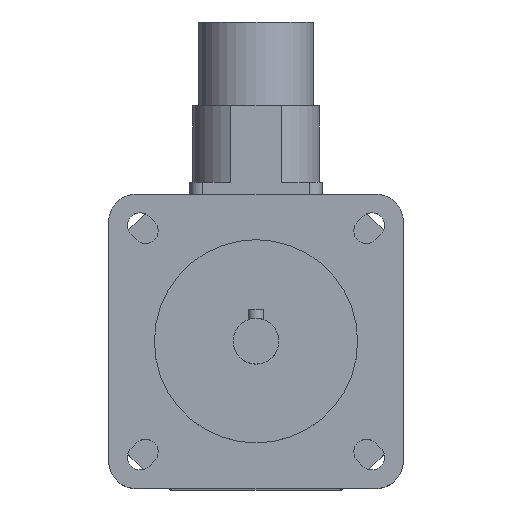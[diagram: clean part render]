
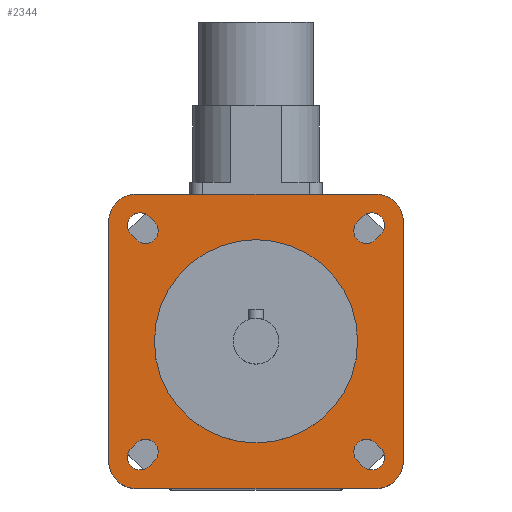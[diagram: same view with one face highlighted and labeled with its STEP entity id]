
A CAD part, top view. The second image highlights one B-rep face of the part: STEP entity #2344.
In plain terms, the highlighted planar face has unit normal (0, 0, 1).
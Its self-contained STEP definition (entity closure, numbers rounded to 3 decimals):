
#28=FACE_BOUND('',#421,.T.);
#29=FACE_BOUND('',#422,.T.);
#30=FACE_BOUND('',#423,.T.);
#31=FACE_BOUND('',#424,.T.);
#32=FACE_BOUND('',#425,.T.);
#46=CIRCLE('',#2435,20.);
#83=CIRCLE('',#2499,2.5);
#87=CIRCLE('',#2506,2.5);
#88=CIRCLE('',#2509,2.5);
#89=CIRCLE('',#2512,2.5);
#99=CIRCLE('',#2527,2.5);
#100=CIRCLE('',#2530,2.5);
#101=CIRCLE('',#2533,2.5);
#102=CIRCLE('',#2536,2.5);
#103=CIRCLE('',#2538,5.5);
#104=CIRCLE('',#2540,5.5);
#105=CIRCLE('',#2542,5.5);
#106=CIRCLE('',#2544,5.5);
#281=FACE_OUTER_BOUND('',#420,.T.);
#420=EDGE_LOOP('',(#1806,#1807,#1808,#1809,#1810,#1811,#1812,#1813));
#421=EDGE_LOOP('',(#1814));
#422=EDGE_LOOP('',(#1815,#1816,#1817,#1818));
#423=EDGE_LOOP('',(#1819,#1820,#1821,#1822));
#424=EDGE_LOOP('',(#1823,#1824,#1825,#1826));
#425=EDGE_LOOP('',(#1827,#1828,#1829,#1830));
#564=LINE('',#3642,#783);
#572=LINE('',#3666,#791);
#576=LINE('',#3676,#795);
#580=LINE('',#3686,#799);
#596=LINE('',#3737,#815);
#598=LINE('',#3743,#817);
#600=LINE('',#3749,#819);
#602=LINE('',#3755,#821);
#611=LINE('',#3783,#830);
#612=LINE('',#3784,#831);
#613=LINE('',#3785,#832);
#614=LINE('',#3786,#833);
#783=VECTOR('',#2885,1.5);
#791=VECTOR('',#2907,1.5);
#795=VECTOR('',#2917,1.5);
#799=VECTOR('',#2927,1.5);
#815=VECTOR('',#2973,1.5);
#817=VECTOR('',#2981,1.5);
#819=VECTOR('',#2989,1.5);
#821=VECTOR('',#2997,1.5);
#830=VECTOR('',#3028,47.);
#831=VECTOR('',#3029,47.);
#832=VECTOR('',#3030,47.);
#833=VECTOR('',#3031,47.);
#956=VERTEX_POINT('',#3463);
#1021=VERTEX_POINT('',#3639);
#1022=VERTEX_POINT('',#3641);
#1023=VERTEX_POINT('',#3645);
#1030=VERTEX_POINT('',#3663);
#1031=VERTEX_POINT('',#3665);
#1032=VERTEX_POINT('',#3669);
#1033=VERTEX_POINT('',#3673);
#1034=VERTEX_POINT('',#3675);
#1035=VERTEX_POINT('',#3679);
#1036=VERTEX_POINT('',#3683);
#1037=VERTEX_POINT('',#3685);
#1038=VERTEX_POINT('',#3689);
#1057=VERTEX_POINT('',#3735);
#1058=VERTEX_POINT('',#3741);
#1059=VERTEX_POINT('',#3747);
#1060=VERTEX_POINT('',#3753);
#1061=VERTEX_POINT('',#3759);
#1062=VERTEX_POINT('',#3761);
#1063=VERTEX_POINT('',#3765);
#1064=VERTEX_POINT('',#3767);
#1065=VERTEX_POINT('',#3771);
#1066=VERTEX_POINT('',#3773);
#1067=VERTEX_POINT('',#3777);
#1068=VERTEX_POINT('',#3779);
#1190=EDGE_CURVE('',#956,#956,#46,.T.);
#1276=EDGE_CURVE('',#1022,#1021,#564,.T.);
#1279=EDGE_CURVE('',#1021,#1023,#83,.T.);
#1288=EDGE_CURVE('',#1031,#1030,#572,.T.);
#1291=EDGE_CURVE('',#1030,#1032,#87,.T.);
#1293=EDGE_CURVE('',#1034,#1033,#576,.T.);
#1296=EDGE_CURVE('',#1033,#1035,#88,.T.);
#1298=EDGE_CURVE('',#1037,#1036,#580,.T.);
#1301=EDGE_CURVE('',#1036,#1038,#89,.T.);
#1324=EDGE_CURVE('',#1035,#1057,#596,.T.);
#1325=EDGE_CURVE('',#1057,#1034,#99,.T.);
#1327=EDGE_CURVE('',#1032,#1058,#598,.T.);
#1328=EDGE_CURVE('',#1058,#1031,#100,.T.);
#1330=EDGE_CURVE('',#1038,#1059,#600,.T.);
#1331=EDGE_CURVE('',#1059,#1037,#101,.T.);
#1333=EDGE_CURVE('',#1023,#1060,#602,.T.);
#1334=EDGE_CURVE('',#1060,#1022,#102,.T.);
#1336=EDGE_CURVE('',#1062,#1061,#103,.T.);
#1339=EDGE_CURVE('',#1064,#1063,#104,.T.);
#1342=EDGE_CURVE('',#1066,#1065,#105,.T.);
#1345=EDGE_CURVE('',#1068,#1067,#106,.T.);
#1347=EDGE_CURVE('',#1061,#1068,#611,.T.);
#1348=EDGE_CURVE('',#1067,#1066,#612,.T.);
#1349=EDGE_CURVE('',#1065,#1064,#613,.T.);
#1350=EDGE_CURVE('',#1063,#1062,#614,.T.);
#1806=ORIENTED_EDGE('',*,*,#1347,.T.);
#1807=ORIENTED_EDGE('',*,*,#1345,.T.);
#1808=ORIENTED_EDGE('',*,*,#1348,.T.);
#1809=ORIENTED_EDGE('',*,*,#1342,.T.);
#1810=ORIENTED_EDGE('',*,*,#1349,.T.);
#1811=ORIENTED_EDGE('',*,*,#1339,.T.);
#1812=ORIENTED_EDGE('',*,*,#1350,.T.);
#1813=ORIENTED_EDGE('',*,*,#1336,.T.);
#1814=ORIENTED_EDGE('',*,*,#1190,.T.);
#1815=ORIENTED_EDGE('',*,*,#1324,.T.);
#1816=ORIENTED_EDGE('',*,*,#1325,.T.);
#1817=ORIENTED_EDGE('',*,*,#1293,.T.);
#1818=ORIENTED_EDGE('',*,*,#1296,.T.);
#1819=ORIENTED_EDGE('',*,*,#1327,.T.);
#1820=ORIENTED_EDGE('',*,*,#1328,.T.);
#1821=ORIENTED_EDGE('',*,*,#1288,.T.);
#1822=ORIENTED_EDGE('',*,*,#1291,.T.);
#1823=ORIENTED_EDGE('',*,*,#1330,.T.);
#1824=ORIENTED_EDGE('',*,*,#1331,.T.);
#1825=ORIENTED_EDGE('',*,*,#1298,.T.);
#1826=ORIENTED_EDGE('',*,*,#1301,.T.);
#1827=ORIENTED_EDGE('',*,*,#1333,.T.);
#1828=ORIENTED_EDGE('',*,*,#1334,.T.);
#1829=ORIENTED_EDGE('',*,*,#1276,.T.);
#1830=ORIENTED_EDGE('',*,*,#1279,.T.);
#2248=PLANE('',#2545);
#2344=ADVANCED_FACE('',(#281,#28,#29,#30,#31,#32),#2248,.T.);
#2435=AXIS2_PLACEMENT_3D('',#3464,#2710,#2711);
#2499=AXIS2_PLACEMENT_3D('',#3647,#2890,#2891);
#2506=AXIS2_PLACEMENT_3D('',#3671,#2912,#2913);
#2509=AXIS2_PLACEMENT_3D('',#3681,#2922,#2923);
#2512=AXIS2_PLACEMENT_3D('',#3691,#2932,#2933);
#2527=AXIS2_PLACEMENT_3D('',#3739,#2976,#2977);
#2530=AXIS2_PLACEMENT_3D('',#3745,#2984,#2985);
#2533=AXIS2_PLACEMENT_3D('',#3751,#2992,#2993);
#2536=AXIS2_PLACEMENT_3D('',#3757,#3000,#3001);
#2538=AXIS2_PLACEMENT_3D('',#3762,#3005,#3006);
#2540=AXIS2_PLACEMENT_3D('',#3768,#3011,#3012);
#2542=AXIS2_PLACEMENT_3D('',#3774,#3017,#3018);
#2544=AXIS2_PLACEMENT_3D('',#3780,#3023,#3024);
#2545=AXIS2_PLACEMENT_3D('',#3782,#3026,#3027);
#2710=DIRECTION('center_axis',(0.,0.,-1.));
#2711=DIRECTION('ref_axis',(-1.,0.,0.));
#2885=DIRECTION('',(-0.707,-0.707,0.));
#2890=DIRECTION('center_axis',(0.,0.,-1.));
#2891=DIRECTION('ref_axis',(0.707,-0.707,0.));
#2907=DIRECTION('',(-0.707,0.707,0.));
#2912=DIRECTION('center_axis',(0.,0.,-1.));
#2913=DIRECTION('ref_axis',(-0.707,-0.707,0.));
#2917=DIRECTION('',(-0.707,-0.707,0.));
#2922=DIRECTION('center_axis',(0.,0.,-1.));
#2923=DIRECTION('ref_axis',(0.707,-0.707,0.));
#2927=DIRECTION('',(-0.707,0.707,0.));
#2932=DIRECTION('center_axis',(0.,0.,-1.));
#2933=DIRECTION('ref_axis',(-0.707,-0.707,0.));
#2973=DIRECTION('',(0.707,0.707,0.));
#2976=DIRECTION('center_axis',(0.,0.,-1.));
#2977=DIRECTION('ref_axis',(-0.707,0.707,0.));
#2981=DIRECTION('',(0.707,-0.707,0.));
#2984=DIRECTION('center_axis',(0.,0.,-1.));
#2985=DIRECTION('ref_axis',(0.707,0.707,0.));
#2989=DIRECTION('',(0.707,-0.707,0.));
#2992=DIRECTION('center_axis',(0.,0.,-1.));
#2993=DIRECTION('ref_axis',(0.707,0.707,0.));
#2997=DIRECTION('',(0.707,0.707,0.));
#3000=DIRECTION('center_axis',(0.,0.,-1.));
#3001=DIRECTION('ref_axis',(-0.707,0.707,0.));
#3005=DIRECTION('center_axis',(0.,0.,1.));
#3006=DIRECTION('ref_axis',(1.,0.,0.));
#3011=DIRECTION('center_axis',(0.,0.,1.));
#3012=DIRECTION('ref_axis',(0.,-1.,0.));
#3017=DIRECTION('center_axis',(0.,0.,1.));
#3018=DIRECTION('ref_axis',(-1.,0.,0.));
#3023=DIRECTION('center_axis',(0.,0.,1.));
#3024=DIRECTION('ref_axis',(0.,1.,0.));
#3026=DIRECTION('center_axis',(0.,0.,1.));
#3027=DIRECTION('ref_axis',(1.,0.,0.));
#3028=DIRECTION('',(-1.,0.,0.));
#3029=DIRECTION('',(0.,-1.,0.));
#3030=DIRECTION('',(1.,0.,0.));
#3031=DIRECTION('',(0.,1.,0.));
#3463=CARTESIAN_POINT('',(20.,0.,127.));
#3464=CARTESIAN_POINT('Origin',(0.,0.,127.));
#3639=CARTESIAN_POINT('',(-21.036,-24.572,127.));
#3641=CARTESIAN_POINT('',(-19.976,-23.511,127.));
#3642=CARTESIAN_POINT('',(-9.634,-13.17,127.));
#3645=CARTESIAN_POINT('',(-24.572,-21.036,127.));
#3647=CARTESIAN_POINT('Origin',(-22.804,-22.804,127.));
#3663=CARTESIAN_POINT('',(-24.572,21.036,127.));
#3665=CARTESIAN_POINT('',(-23.511,19.976,127.));
#3666=CARTESIAN_POINT('',(-13.17,9.634,127.));
#3669=CARTESIAN_POINT('',(-21.036,24.572,127.));
#3671=CARTESIAN_POINT('Origin',(-22.804,22.804,127.));
#3673=CARTESIAN_POINT('',(23.511,19.976,127.));
#3675=CARTESIAN_POINT('',(24.572,21.036,127.));
#3676=CARTESIAN_POINT('',(12.64,9.104,127.));
#3679=CARTESIAN_POINT('',(19.976,23.511,127.));
#3681=CARTESIAN_POINT('Origin',(21.744,21.744,127.));
#3683=CARTESIAN_POINT('',(19.976,-23.511,127.));
#3685=CARTESIAN_POINT('',(21.036,-24.572,127.));
#3686=CARTESIAN_POINT('',(9.104,-12.64,127.));
#3689=CARTESIAN_POINT('',(23.511,-19.976,127.));
#3691=CARTESIAN_POINT('Origin',(21.744,-21.744,127.));
#3735=CARTESIAN_POINT('',(21.036,24.572,127.));
#3737=CARTESIAN_POINT('',(9.634,13.17,127.));
#3739=CARTESIAN_POINT('Origin',(22.804,22.804,127.));
#3741=CARTESIAN_POINT('',(-19.976,23.511,127.));
#3743=CARTESIAN_POINT('',(-9.104,12.64,127.));
#3745=CARTESIAN_POINT('Origin',(-21.744,21.744,127.));
#3747=CARTESIAN_POINT('',(24.572,-21.036,127.));
#3749=CARTESIAN_POINT('',(13.17,-9.634,127.));
#3751=CARTESIAN_POINT('Origin',(22.804,-22.804,127.));
#3753=CARTESIAN_POINT('',(-23.511,-19.976,127.));
#3755=CARTESIAN_POINT('',(-12.64,-9.104,127.));
#3757=CARTESIAN_POINT('Origin',(-21.744,-21.744,127.));
#3759=CARTESIAN_POINT('',(23.5,29.,127.));
#3761=CARTESIAN_POINT('',(29.,23.5,127.));
#3762=CARTESIAN_POINT('Origin',(23.5,23.5,127.));
#3765=CARTESIAN_POINT('',(29.,-23.5,127.));
#3767=CARTESIAN_POINT('',(23.5,-29.,127.));
#3768=CARTESIAN_POINT('Origin',(23.5,-23.5,127.));
#3771=CARTESIAN_POINT('',(-23.5,-29.,127.));
#3773=CARTESIAN_POINT('',(-29.,-23.5,127.));
#3774=CARTESIAN_POINT('Origin',(-23.5,-23.5,127.));
#3777=CARTESIAN_POINT('',(-29.,23.5,127.));
#3779=CARTESIAN_POINT('',(-23.5,29.,127.));
#3780=CARTESIAN_POINT('Origin',(-23.5,23.5,127.));
#3782=CARTESIAN_POINT('Origin',(0.,0.,
127.));
#3783=CARTESIAN_POINT('',(23.5,29.,127.));
#3784=CARTESIAN_POINT('',(-29.,23.5,127.));
#3785=CARTESIAN_POINT('',(-23.5,-29.,127.));
#3786=CARTESIAN_POINT('',(29.,-23.5,127.));
